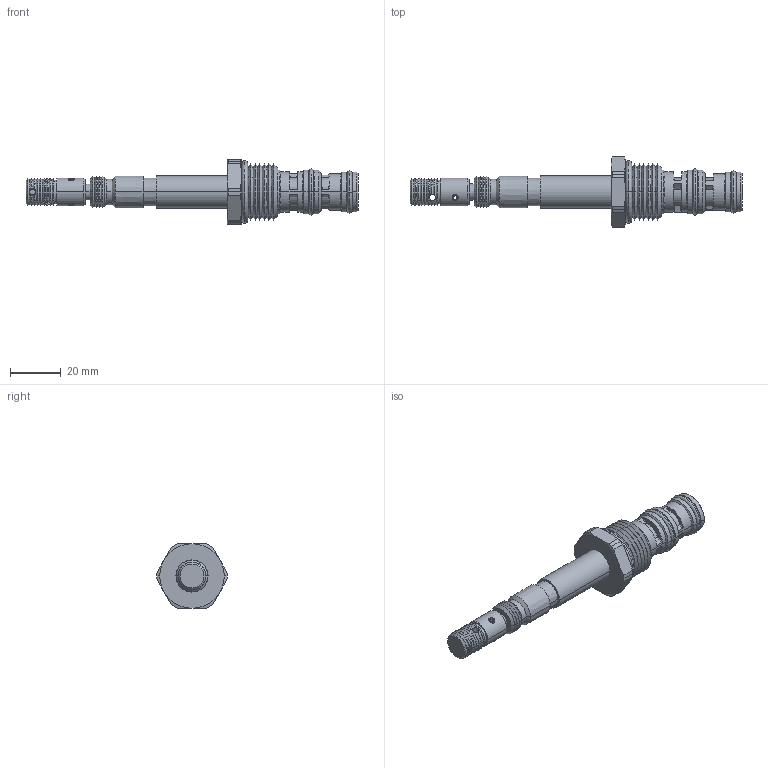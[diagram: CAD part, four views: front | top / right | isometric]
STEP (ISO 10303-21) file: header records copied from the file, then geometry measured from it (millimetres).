
FILE_DESCRIPTION((''),'2;1');
FILE_NAME('U:\Solid model CD\Solid model full\Solenoid\STEP\DFS3T0M-3D Full.stp','2008-06-23T08:28:54',('Dan'),(''),'Autodesk Inventor 9','Autodesk Inventor 9','');
FILE_SCHEMA(('AUTOMOTIVE_DESIGN { 1 0 10303 214 1 1 1 1 }'));
Length unit declared in the file: inch
Products named in the file (8): DFS3T0M-3D Full; DFS3T0M-3D Full1; DFS3T0M-3D Full2; DFS3T0M-3D Full3; DFS3T0M-3D Full4; DFS3T0M-3D Full5; DFS3T0M-3D Full6; DFS3T0M-3D Full7
Assembly tree (7 placements, depth 2):
  DFS3T0M-3D Full
    DFS3T0M-3D Full1
    DFS3T0M-3D Full2
    DFS3T0M-3D Full3
    DFS3T0M-3D Full4
    DFS3T0M-3D Full5
    DFS3T0M-3D Full6
    DFS3T0M-3D Full7
Bounding box: 130.94 x 27.76 x 25.4 mm (x, y, z)
Volume: 21614.7 mm3; surface area: 10403.1 mm2
Topology: 7 solids, 7 shells, 419 faces, 965 edges, 567 vertices
Faces by surface type: cone 258, cylinder 72, plane 41, torus 28, bspline 20
Entity records: 13461 total; most frequent: CARTESIAN_POINT 3812, DIRECTION 2136, ORIENTED_EDGE 1930, EDGE_CURVE 965, AXIS2_PLACEMENT_3D 915, VERTEX_POINT 567, CIRCLE 501, EDGE_LOOP 438
